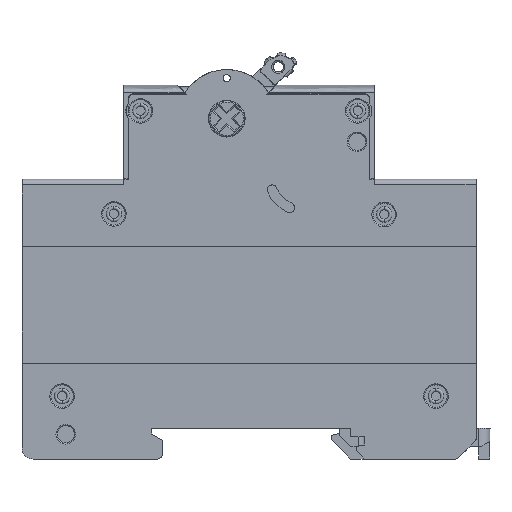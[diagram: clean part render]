
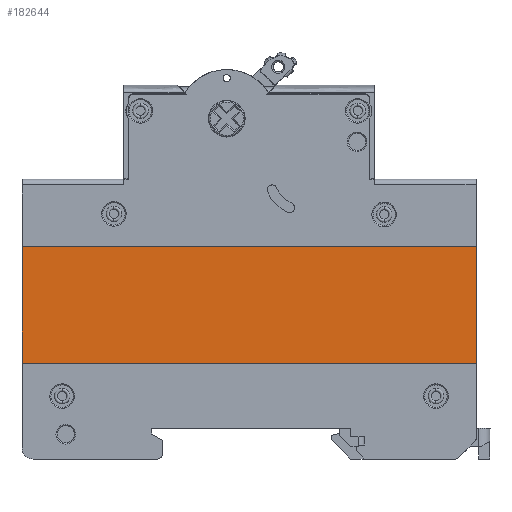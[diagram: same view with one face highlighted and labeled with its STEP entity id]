
A CAD part, left-side view. The second image highlights one B-rep face of the part: STEP entity #182644.
In plain terms, the highlighted planar face has unit normal (-1, 0, 0) as drawn and (0, 0, 1) by its records, which use the part's own axes.
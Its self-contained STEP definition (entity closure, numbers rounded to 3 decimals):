
#7541 = FACE_OUTER_BOUND ( 'NONE', #252291, .T. ) ;
#7579 = LINE ( 'NONE', #101400, #37286 ) ;
#17885 = CARTESIAN_POINT ( 'NONE',  ( 29.193, -3.507, 8.416 ) ) ;
#31923 = CARTESIAN_POINT ( 'NONE',  ( -52.307, -3.507, 8.416 ) ) ;
#32852 = CARTESIAN_POINT ( 'NONE',  ( -52.307, -24.507, 8.416 ) ) ;
#33391 = DIRECTION ( 'NONE',  ( -1., 0., 0. ) ) ;
#36565 = DIRECTION ( 'NONE',  ( 0., 0., -1. ) ) ;
#37286 = VECTOR ( 'NONE', #177222, 1000. ) ;
#72737 = LINE ( 'NONE', #17885, #182770 ) ;
#77985 = EDGE_CURVE ( 'NONE', #292867, #200131, #72737, .T. ) ;
#93670 = CARTESIAN_POINT ( 'NONE',  ( -52.307, -24.507, 8.416 ) ) ;
#101400 = CARTESIAN_POINT ( 'NONE',  ( 29.193, -24.507, 8.416 ) ) ;
#103064 = DIRECTION ( 'NONE',  ( 1., 0., 0. ) ) ;
#118013 = LINE ( 'NONE', #93670, #123675 ) ;
#119603 = ORIENTED_EDGE ( 'NONE', *, *, #285174, .F. ) ;
#123675 = VECTOR ( 'NONE', #245455, 1000. ) ;
#123945 = CARTESIAN_POINT ( 'NONE',  ( 29.193, -3.507, 8.416 ) ) ;
#127923 = CARTESIAN_POINT ( 'NONE',  ( 29.193, -24.507, 8.416 ) ) ;
#157852 = LINE ( 'NONE', #31923, #304168 ) ;
#158853 = CARTESIAN_POINT ( 'NONE',  ( -52.307, -3.507, 8.416 ) ) ;
#177222 = DIRECTION ( 'NONE',  ( -1., 0., 0. ) ) ;
#180359 = PLANE ( 'NONE',  #303203 ) ;
#182644 = ADVANCED_FACE ( 'NONE', ( #7541 ), #180359, .F. ) ;
#182770 = VECTOR ( 'NONE', #215003, 1000. ) ;
#200131 = VERTEX_POINT ( 'NONE', #127923 ) ;
#207827 = ORIENTED_EDGE ( 'NONE', *, *, #314873, .F. ) ;
#209686 = ORIENTED_EDGE ( 'NONE', *, *, #77985, .F. ) ;
#215003 = DIRECTION ( 'NONE',  ( 0., -1., 0. ) ) ;
#230462 = CARTESIAN_POINT ( 'NONE',  ( -15.557, 19.418, 8.416 ) ) ;
#244188 = VERTEX_POINT ( 'NONE', #158853 ) ;
#245455 = DIRECTION ( 'NONE',  ( 0., 1., 0. ) ) ;
#252291 = EDGE_LOOP ( 'NONE', ( #278868, #207827, #119603, #209686 ) ) ;
#277083 = EDGE_CURVE ( 'NONE', #244188, #292867, #157852, .T. ) ;
#278868 = ORIENTED_EDGE ( 'NONE', *, *, #277083, .F. ) ;
#285174 = EDGE_CURVE ( 'NONE', #200131, #289138, #7579, .T. ) ;
#289138 = VERTEX_POINT ( 'NONE', #32852 ) ;
#292867 = VERTEX_POINT ( 'NONE', #123945 ) ;
#303203 = AXIS2_PLACEMENT_3D ( 'NONE', #230462, #36565, #33391 ) ;
#304168 = VECTOR ( 'NONE', #103064, 1000. ) ;
#314873 = EDGE_CURVE ( 'NONE', #289138, #244188, #118013, .T. ) ;
